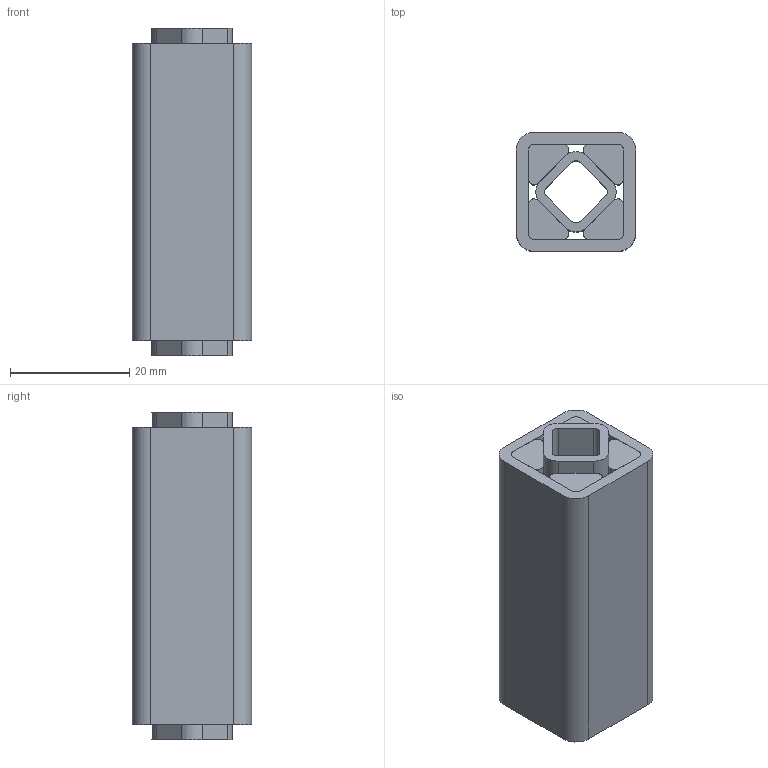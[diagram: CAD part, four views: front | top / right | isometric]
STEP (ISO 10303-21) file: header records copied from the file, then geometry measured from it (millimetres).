
FILE_DESCRIPTION((''),'2;1');
FILE_NAME('D:\ROSTA\Gummifederelemente\3D\DR-S11x50_01021003.stp','2005-02-01T16:33:12',('Administrator'),(''),'Autodesk Inventor 8','Autodesk Inventor 8','');
FILE_SCHEMA(('AUTOMOTIVE_DESIGN { 1 0 10303 214 1 1 1 1 }'));
Length unit declared in the file: millimetre
Products named in the file (4): 4.4.3725-008; 4.4.3725-009; 4.4.3725-010; 4.4.3725-011
Assembly tree (6 placements, depth 2):
  4.4.3725-008
    4.4.3725-009
    4.4.3725-010
    4.4.3725-011  x4
Bounding box: 20 x 20 x 55 mm (x, y, z)
Volume: 15966.2 mm3; surface area: 15873.8 mm2
Topology: 6 solids, 6 shells, 68 faces, 168 edges, 112 vertices
Faces by surface type: plane 40, cylinder 28
Entity records: 1491 total; most frequent: DIRECTION 260, CARTESIAN_POINT 244, ORIENTED_EDGE 228, EDGE_CURVE 114, AXIS2_PLACEMENT_3D 92, VERTEX_POINT 76, VECTOR 76, LINE 76
